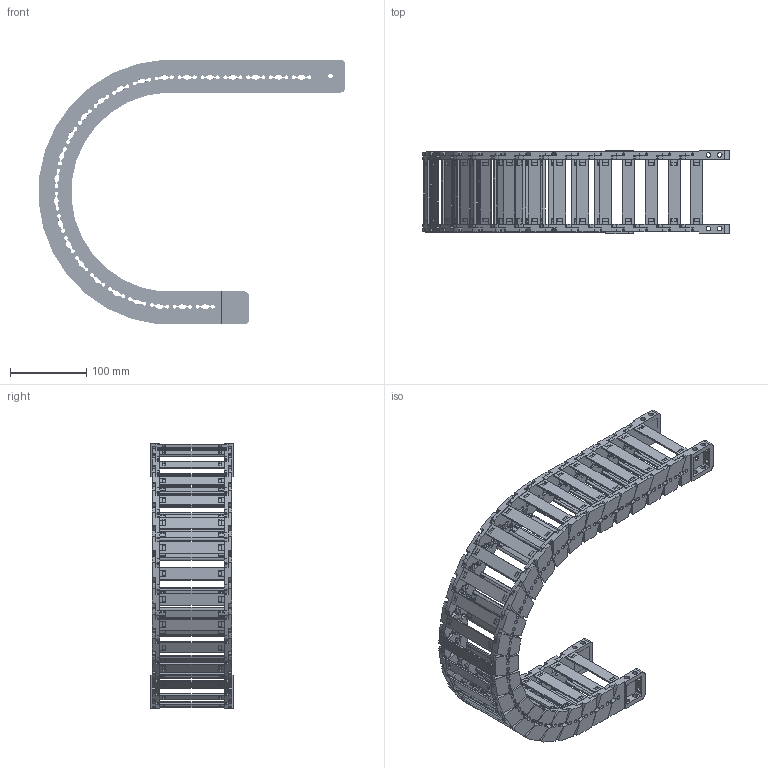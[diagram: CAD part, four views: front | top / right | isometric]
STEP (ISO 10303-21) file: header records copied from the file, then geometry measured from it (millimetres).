
FILE_DESCRIPTION((''),'2;1');
FILE_NAME('JY-35X77-R150_ASM','2025-07-23T16:12:59',('admin'),(''),'CREO PARAMETRIC BY PTC INC, 2021023','CREO PARAMETRIC BY PTC INC, 2021023','');
FILE_SCHEMA(('CONFIG_CONTROL_DESIGN','GEOMETRIC_VALIDATION_PROPERTIES_MIM'));
Length unit declared in the file: millimetre
Products named in the file (12): 35XL-L_1; YP_2; 35XL-R_1; ASM0001_ASM_2_ASM; 35-LTT-A-L_1; 35-LTT-A-R_1; 35XL-LTT-A_ASM_2_ASM; 35-LTT-B-L_1; 35-LTT-B-R_1; 35XL-LTT-B_ASM_2_ASM; JY-35X77-R150_ASM_8_ASM; JY-35X77-R150_ASM
Assembly tree (38 placements, depth 4):
  JY-35X77-R150_ASM
    JY-35X77-R150_ASM_8_ASM
      ASM0001_ASM_2_ASM  x23
        35XL-L_1
        YP_2
        35XL-R_1
      35XL-LTT-A_ASM_2_ASM
        35-LTT-A-L_1
        YP_2  x2
        35-LTT-A-R_1
      35XL-LTT-B_ASM_2_ASM
        35-LTT-B-L_1
        YP_2  x2
        35-LTT-B-R_1
Bounding box: 402.36 x 108.9 x 347.06 mm (x, y, z)
Volume: 758627.5 mm3; surface area: 449935.6 mm2
Topology: 100 solids, 100 shells, 6512 faces, 19569 edges, 13165 vertices
Faces by surface type: plane 3418, cylinder 2662, extrusion 192, bspline 144, cone 96
Entity records: 24452 total; most frequent: CARTESIAN_POINT 5415, ORIENTED_EDGE 3882, DIRECTION 3686, EDGE_CURVE 1941, VERTEX_POINT 1303, AXIS2_PLACEMENT_3D 1249, VECTOR 1188, LINE 1172
